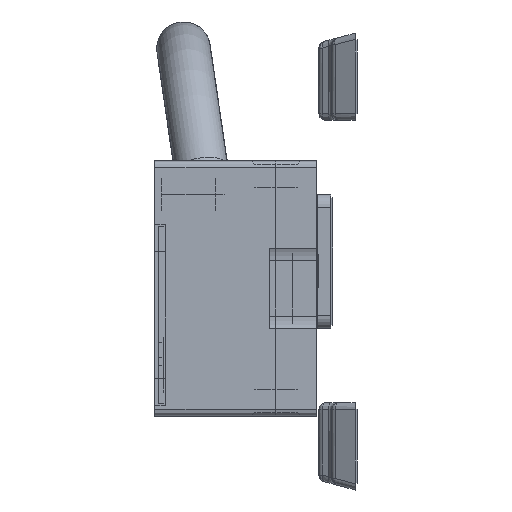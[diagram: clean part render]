
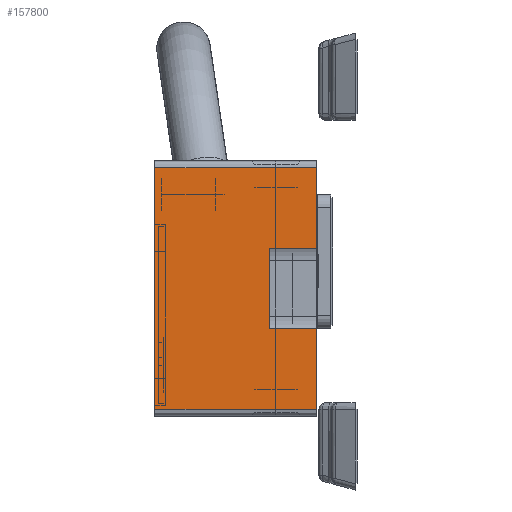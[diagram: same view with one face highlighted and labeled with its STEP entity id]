
A CAD part, left-side view. The second image highlights one B-rep face of the part: STEP entity #157800.
In plain terms, the highlighted planar face has unit normal (-1, 0, 0).
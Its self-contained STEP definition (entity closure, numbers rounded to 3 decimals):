
#151670=CARTESIAN_POINT('',(-46.,18.3,-12.));
#151680=VERTEX_POINT('',#151670);
#151710=CARTESIAN_POINT('',(-46.,0.3,-12.));
#151720=DIRECTION('',(0.,1.,0.));
#151730=VECTOR('',#151720,1.);
#151740=LINE('',#151710,#151730);
#151750=CARTESIAN_POINT('',(-46.,0.3,-12.));
#151760=VERTEX_POINT('',#151750);
#151770=EDGE_CURVE('',#151760,#151680,#151740,.T.);
#155470=CARTESIAN_POINT('',(-46.,18.3,0.)
);
#155480=VERTEX_POINT('',#155470);
#156890=CARTESIAN_POINT('',(-46.,0.3,0.)
);
#156900=VERTEX_POINT('',#156890);
#156930=CARTESIAN_POINT('',(-46.,0.3,0.)
);
#156940=DIRECTION('',(0.,1.,0.));
#156950=VECTOR('',#156940,1.);
#156960=LINE('',#156930,#156950);
#156970=CARTESIAN_POINT('',(-46.,6.328,0.))
;
#156980=VERTEX_POINT('',#156970);
#156990=EDGE_CURVE('',#156900,#156980,#156960,.T.);
#157230=CARTESIAN_POINT('',(-46.,12.272,0.))
;
#157240=VERTEX_POINT('',#157230);
#157270=CARTESIAN_POINT('',(-46.,12.272,0.))
;
#157280=DIRECTION('',(0.,1.,0.));
#157290=VECTOR('',#157280,1.);
#157300=LINE('',#157270,#157290);
#157310=EDGE_CURVE('',#157240,#155480,#157300,.T.);
#157360=CARTESIAN_POINT('',(-46.,17.8,-6.));
#157370=DIRECTION('',(-1.,0.,0.));
#157380=DIRECTION('',(0.,-1.,0.));
#157390=AXIS2_PLACEMENT_3D('',#157360,#157370,#157380);
#157400=PLANE('',#157390);
#157410=CARTESIAN_POINT('',(-46.,12.272,0.)
);
#157420=DIRECTION('',(0.,0.,-1.));
#157430=VECTOR('',#157420,1.);
#157440=LINE('',#157410,#157430);
#157450=CARTESIAN_POINT('',(-46.,12.272,-3.5));
#157460=VERTEX_POINT('',#157450);
#157470=EDGE_CURVE('',#157240,#157460,#157440,.T.);
#157480=ORIENTED_EDGE('',*,*,#157470,.F.);
#157490=CARTESIAN_POINT('',(-46.,12.272,-3.5));
#157500=DIRECTION('',(0.,-1.,0.));
#157510=VECTOR('',#157500,1.);
#157520=LINE('',#157490,#157510);
#157530=CARTESIAN_POINT('',(-46.,6.328,-3.5));
#157540=VERTEX_POINT('',#157530);
#157550=EDGE_CURVE('',#157460,#157540,#157520,.T.);
#157560=ORIENTED_EDGE('',*,*,#157550,.F.);
#157570=CARTESIAN_POINT('',(-46.,6.328,-3.5));
#157580=DIRECTION('',(0.,0.,1.));
#157590=VECTOR('',#157580,1.);
#157600=LINE('',#157570,#157590);
#157610=EDGE_CURVE('',#157540,#156980,#157600,.T.);
#157620=ORIENTED_EDGE('',*,*,#157610,.F.);
#157630=ORIENTED_EDGE('',*,*,#156990,.T.);
#157640=CARTESIAN_POINT('',(-46.,0.3,0.)
);
#157650=DIRECTION('',(0.,0.,-1.));
#157660=VECTOR('',#157650,1.);
#157670=LINE('',#157640,#157660);
#157680=EDGE_CURVE('',#156900,#151760,#157670,.T.);
#157690=ORIENTED_EDGE('',*,*,#157680,.F.);
#157700=ORIENTED_EDGE('',*,*,#151770,.F.);
#157710=CARTESIAN_POINT('',(-46.,18.3,-12.));
#157720=DIRECTION('',(0.,0.,1.));
#157730=VECTOR('',#157720,1.);
#157740=LINE('',#157710,#157730);
#157750=EDGE_CURVE('',#151680,#155480,#157740,.T.);
#157760=ORIENTED_EDGE('',*,*,#157750,.F.);
#157770=ORIENTED_EDGE('',*,*,#157310,.T.);
#157780=EDGE_LOOP('',(#157770,#157760,#157700,#157690,#157630,#157620,
#157560,#157480));
#157790=FACE_OUTER_BOUND('',#157780,.T.);
#157800=ADVANCED_FACE('',(#157790),#157400,.T.);
